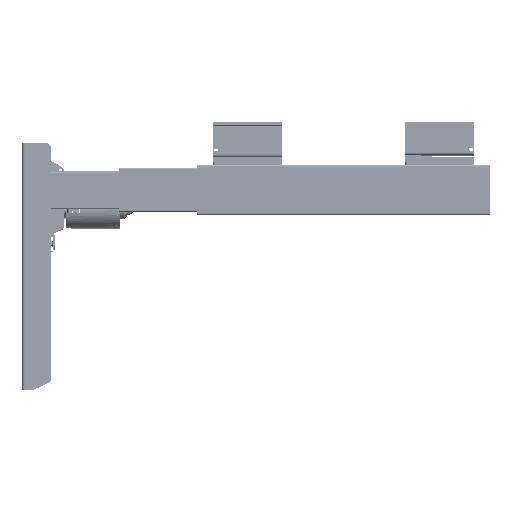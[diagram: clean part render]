
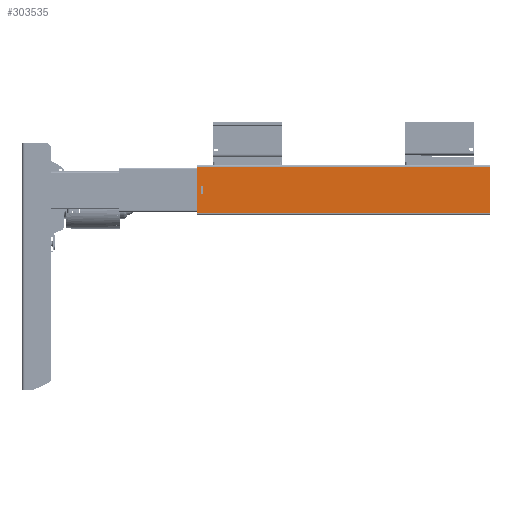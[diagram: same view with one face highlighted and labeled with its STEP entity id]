
A CAD part, left-side view. The second image highlights one B-rep face of the part: STEP entity #303535.
In plain terms, the highlighted planar face has unit normal (-1, 0, 0).
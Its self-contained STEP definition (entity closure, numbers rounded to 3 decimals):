
#4186 = ORIENTED_EDGE ( 'NONE', *, *, #147728, .T. ) ;
#7305 = EDGE_LOOP ( 'NONE', ( #166189, #23397, #193171, #4186 ) ) ;
#9042 = LINE ( 'NONE', #280498, #295249 ) ;
#10087 = DIRECTION ( 'NONE',  ( 1., 0., 0. ) ) ;
#10758 = EDGE_CURVE ( 'NONE', #284948, #62858, #9042, .T. ) ;
#23397 = ORIENTED_EDGE ( 'NONE', *, *, #269425, .F. ) ;
#24204 = EDGE_CURVE ( 'NONE', #111678, #284948, #150013, .T. ) ;
#28435 = LINE ( 'NONE', #123299, #71337 ) ;
#29149 = VERTEX_POINT ( 'NONE', #76413 ) ;
#34199 = FACE_OUTER_BOUND ( 'NONE', #7305, .T. ) ;
#42775 = VERTEX_POINT ( 'NONE', #288188 ) ;
#43968 = CARTESIAN_POINT ( 'NONE',  ( -30., -6., 10. ) ) ;
#52509 = EDGE_CURVE ( 'NONE', #62858, #293555, #301266, .T. ) ;
#58732 = DIRECTION ( 'NONE',  ( 0., 0., -1. ) ) ;
#62858 = VERTEX_POINT ( 'NONE', #43968 ) ;
#71337 = VECTOR ( 'NONE', #78286, 1000. ) ;
#71375 = VECTOR ( 'NONE', #94122, 1000. ) ;
#76413 = CARTESIAN_POINT ( 'NONE',  ( -30., 37., 465. ) ) ;
#78286 = DIRECTION ( 'NONE',  ( 0., 1., 0. ) ) ;
#85477 = LINE ( 'NONE', #284553, #138529 ) ;
#94122 = DIRECTION ( 'NONE',  ( 0., -1., 0. ) ) ;
#98131 = CARTESIAN_POINT ( 'NONE',  ( -30., 37., 0. ) ) ;
#104738 = VECTOR ( 'NONE', #58732, 1000. ) ;
#111678 = VERTEX_POINT ( 'NONE', #309582 ) ;
#123299 = CARTESIAN_POINT ( 'NONE',  ( -30., 6., 6. ) ) ;
#125650 = VERTEX_POINT ( 'NONE', #227756 ) ;
#128998 = PLANE ( 'NONE',  #239504 ) ;
#129006 = DIRECTION ( 'NONE',  ( 0., 0., 1. ) ) ;
#136031 = DIRECTION ( 'NONE',  ( 0., 0., -1. ) ) ;
#138529 = VECTOR ( 'NONE', #257267, 1000. ) ;
#145897 = VECTOR ( 'NONE', #129006, 1000. ) ;
#147728 = EDGE_CURVE ( 'NONE', #29149, #312730, #85477, .T. ) ;
#150013 = LINE ( 'NONE', #180456, #145897 ) ;
#153002 = CARTESIAN_POINT ( 'NONE',  ( -30., 37., 0. ) ) ;
#156156 = LINE ( 'NONE', #153002, #294771 ) ;
#159755 = ORIENTED_EDGE ( 'NONE', *, *, #10758, .T. ) ;
#160160 = LINE ( 'NONE', #258051, #261688 ) ;
#166189 = ORIENTED_EDGE ( 'NONE', *, *, #192130, .T. ) ;
#180456 = CARTESIAN_POINT ( 'NONE',  ( -30., 6., 10. ) ) ;
#192130 = EDGE_CURVE ( 'NONE', #312730, #125650, #156156, .T. ) ;
#193171 = ORIENTED_EDGE ( 'NONE', *, *, #211892, .F. ) ;
#195336 = CARTESIAN_POINT ( 'NONE',  ( -30., 37., 465. ) ) ;
#199273 = CARTESIAN_POINT ( 'NONE',  ( -30., -6., 6. ) ) ;
#211892 = EDGE_CURVE ( 'NONE', #29149, #42775, #312565, .T. ) ;
#222174 = DIRECTION ( 'NONE',  ( 0., -1., 0. ) ) ;
#222851 = ORIENTED_EDGE ( 'NONE', *, *, #24204, .T. ) ;
#225442 = DIRECTION ( 'NONE',  ( 0., 1., 0. ) ) ;
#227756 = CARTESIAN_POINT ( 'NONE',  ( -30., -37., 0. ) ) ;
#230144 = EDGE_CURVE ( 'NONE', #293555, #111678, #28435, .T. ) ;
#230648 = ORIENTED_EDGE ( 'NONE', *, *, #230144, .T. ) ;
#239504 = AXIS2_PLACEMENT_3D ( 'NONE', #275145, #10087, #225442 ) ;
#257267 = DIRECTION ( 'NONE',  ( 0., 0., -1. ) ) ;
#258051 = CARTESIAN_POINT ( 'NONE',  ( -30., -37., 465. ) ) ;
#261688 = VECTOR ( 'NONE', #136031, 1000. ) ;
#269425 = EDGE_CURVE ( 'NONE', #42775, #125650, #160160, .T. ) ;
#274576 = EDGE_LOOP ( 'NONE', ( #222851, #159755, #281972, #230648 ) ) ;
#275145 = CARTESIAN_POINT ( 'NONE',  ( -30., 37., 465. ) ) ;
#275711 = DIRECTION ( 'NONE',  ( 0., -1., 0. ) ) ;
#278320 = FACE_BOUND ( 'NONE', #274576, .T. ) ;
#280498 = CARTESIAN_POINT ( 'NONE',  ( -30., 6., 10. ) ) ;
#281972 = ORIENTED_EDGE ( 'NONE', *, *, #52509, .T. ) ;
#284553 = CARTESIAN_POINT ( 'NONE',  ( -30., 37., 465. ) ) ;
#284948 = VERTEX_POINT ( 'NONE', #303038 ) ;
#288188 = CARTESIAN_POINT ( 'NONE',  ( -30., -37., 465. ) ) ;
#293555 = VERTEX_POINT ( 'NONE', #199273 ) ;
#294771 = VECTOR ( 'NONE', #222174, 1000. ) ;
#295249 = VECTOR ( 'NONE', #275711, 1000. ) ;
#301266 = LINE ( 'NONE', #302851, #104738 ) ;
#302851 = CARTESIAN_POINT ( 'NONE',  ( -30., -6., 10. ) ) ;
#303038 = CARTESIAN_POINT ( 'NONE',  ( -30., 6., 10. ) ) ;
#303535 = ADVANCED_FACE ( 'NONE', ( #278320, #34199 ), #128998, .F. ) ;
#309582 = CARTESIAN_POINT ( 'NONE',  ( -30., 6., 6. ) ) ;
#312565 = LINE ( 'NONE', #195336, #71375 ) ;
#312730 = VERTEX_POINT ( 'NONE', #98131 ) ;
